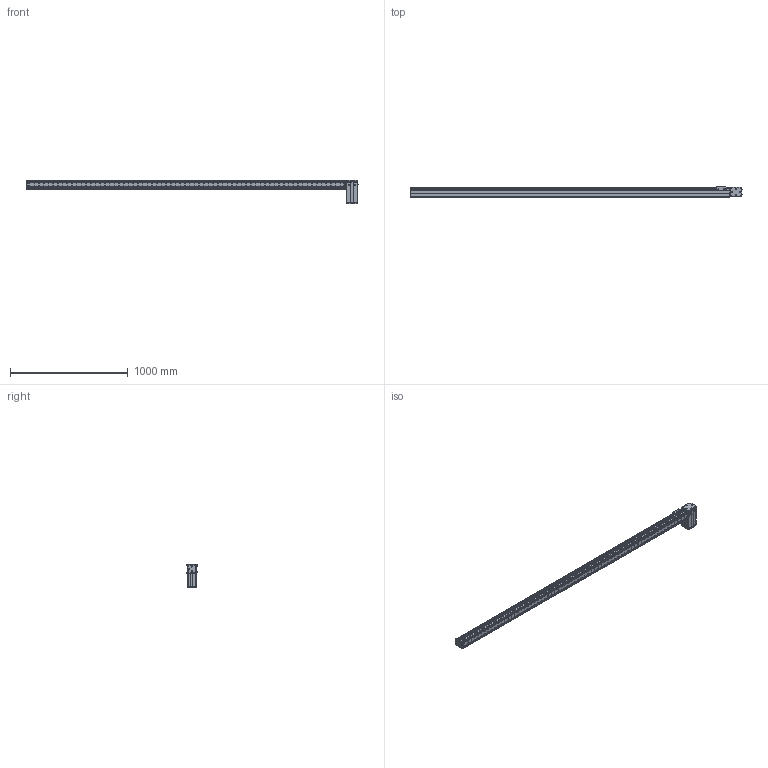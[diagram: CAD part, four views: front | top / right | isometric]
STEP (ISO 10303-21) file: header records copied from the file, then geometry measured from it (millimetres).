
FILE_DESCRIPTION((''),'2;1');
FILE_NAME('BE10_-BL-S_N-R5_IGS_PRT','2017-06-18T',(' '),(''),'PRO/ENGINEER BY PARAMETRIC TECHNOLOGY CORPORATION, 2015030','PRO/ENGINEER BY PARAMETRIC TECHNOLOGY CORPORATION, 2015030','');
FILE_SCHEMA(('CONFIG_CONTROL_DESIGN'));
Products named in the file (1): BE10_-BL-S_N-R5_IGS_PRT
Bounding box: 2820.8 x 85 x 200.22 mm (x, y, z)
Volume: 3479110.6 mm3; surface area: 2502663.5 mm2
Topology: 12 solids, 222 shells, 2455 faces, 6763 edges, 4533 vertices
Faces by surface type: cylinder 1223, plane 1073, cone 103, sphere 28, torus 25, bspline 3
Entity records: 80979 total; most frequent: CARTESIAN_POINT 16654, DIRECTION 13739, ORIENTED_EDGE 12606, EDGE_CURVE 6709, AXIS2_PLACEMENT_3D 5094, VERTEX_POINT 4533, VECTOR 3551, LINE 3551
